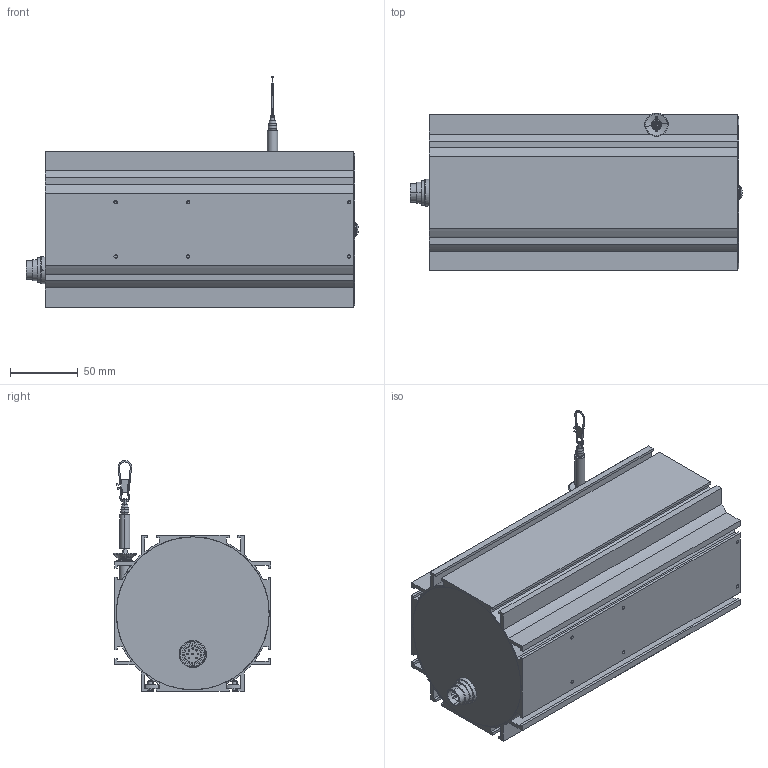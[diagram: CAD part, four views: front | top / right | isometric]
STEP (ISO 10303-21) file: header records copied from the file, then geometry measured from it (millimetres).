
FILE_DESCRIPTION((''),'2;1');
FILE_NAME('','2007-03-21T',(''),(''),'PRO/ENGINEER BY PARAMETRIC TECHNOLOGY CORPORATION, 2003250','PRO/ENGINEER BY PARAMETRIC TECHNOLOGY CORPORATION, 2003250','');
FILE_SCHEMA(('CONFIG_CONTROL_DESIGN'));
Length unit declared in the file: millimetre
Bounding box: 244.47 x 116.11 x 170 mm (x, y, z)
Volume: 440314.3 mm3; surface area: 280702.1 mm2
Topology: 1 solids, 5 shells, 585 faces, 1440 edges, 939 vertices
Faces by surface type: plane 290, cylinder 209, cone 56, torus 26, sphere 4
Entity records: 17915 total; most frequent: CARTESIAN_POINT 3557, DIRECTION 3121, ORIENTED_EDGE 2868, EDGE_CURVE 1434, AXIS2_PLACEMENT_3D 1161, VERTEX_POINT 939, VECTOR 799, LINE 799
